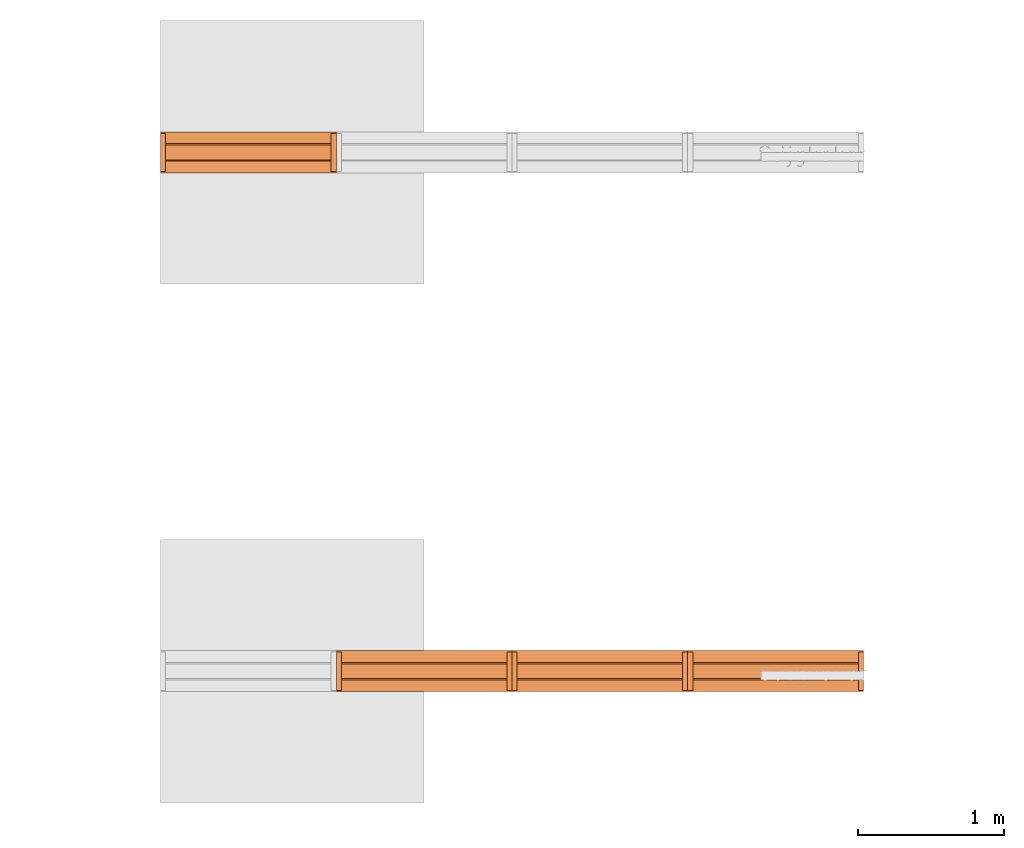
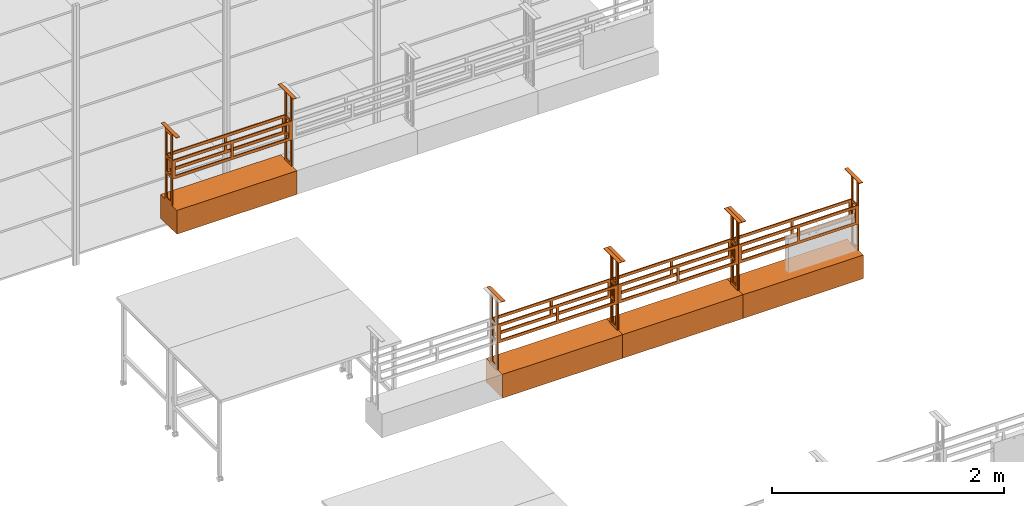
# One storey, part 13 of 32: 4 proxies.
"""IFC2X3 building model written with IfcOpenShell, lengths in metres."""

from ifc_helpers import new_model, entity, si_unit, converted_unit, derived_unit, direction, frame, origin, place, context, subcontext, project, spatial, faceted_brep, source, transform, mapped, material, material_list, type_object, type_shapes, element, save


model = new_model("IFC2X3")

# Units and contexts
model_context = context("Model", 3, precision=1e-05, world=origin(), true_north=direction((6.12303176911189e-17, 1.0)))
body_context = subcontext(model_context, "Body", "Model", "MODEL_VIEW")
ifc_project = project(units=[si_unit("LENGTHUNIT", "METRE"), si_unit("AREAUNIT", "SQUARE_METRE"), si_unit("VOLUMEUNIT", "CUBIC_METRE"), converted_unit("PLANEANGLEUNIT", "DEGREE", entity("IfcRatioMeasure", 0.0174532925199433), si_unit("PLANEANGLEUNIT", "RADIAN"), dimensions=[0, 0, 0, 0, 0, 0, 0]), si_unit("MASSUNIT", "GRAM", prefix="KILO"), derived_unit("MASSDENSITYUNIT", [(si_unit("MASSUNIT", "GRAM", prefix="KILO"), 1), (si_unit("LENGTHUNIT", "METRE"), -3)]), derived_unit("MOMENTOFINERTIAUNIT", [(si_unit("LENGTHUNIT", "METRE"), 4)]), si_unit("TIMEUNIT", "SECOND"), si_unit("FREQUENCYUNIT", "HERTZ"), si_unit("THERMODYNAMICTEMPERATUREUNIT", "DEGREE_CELSIUS"), derived_unit("THERMALTRANSMITTANCEUNIT", [(si_unit("MASSUNIT", "GRAM", prefix="KILO"), 1), (si_unit("THERMODYNAMICTEMPERATUREUNIT", "KELVIN"), -1), (si_unit("TIMEUNIT", "SECOND"), -3)]), derived_unit("VOLUMETRICFLOWRATEUNIT", [(si_unit("LENGTHUNIT", "METRE"), 3), (si_unit("TIMEUNIT", "SECOND"), -1)]), si_unit("ELECTRICCURRENTUNIT", "AMPERE"), si_unit("ELECTRICVOLTAGEUNIT", "VOLT"), si_unit("POWERUNIT", "WATT"), si_unit("FORCEUNIT", "NEWTON", prefix="KILO"), si_unit("ILLUMINANCEUNIT", "LUX"), si_unit("LUMINOUSFLUXUNIT", "LUMEN"), si_unit("LUMINOUSINTENSITYUNIT", "CANDELA"), derived_unit("USERDEFINED", [(si_unit("MASSUNIT", "GRAM", prefix="KILO"), -1), (si_unit("LENGTHUNIT", "METRE"), -2), (si_unit("TIMEUNIT", "SECOND"), 3), (si_unit("LUMINOUSFLUXUNIT", "LUMEN"), 1)]), derived_unit("LINEARVELOCITYUNIT", [(si_unit("LENGTHUNIT", "METRE"), 1), (si_unit("TIMEUNIT", "SECOND"), -1)]), si_unit("PRESSUREUNIT", "PASCAL"), derived_unit("USERDEFINED", [(si_unit("LENGTHUNIT", "METRE"), -2), (si_unit("MASSUNIT", "GRAM", prefix="KILO"), 1), (si_unit("TIMEUNIT", "SECOND"), -2)]), derived_unit("LINEARFORCEUNIT", [(si_unit("MASSUNIT", "GRAM", prefix="KILO"), 1), (si_unit("LENGTHUNIT", "METRE"), 1), (si_unit("TIMEUNIT", "SECOND"), -2), (si_unit("LENGTHUNIT", "METRE"), -1)]), derived_unit("PLANARFORCEUNIT", [(si_unit("MASSUNIT", "GRAM", prefix="KILO"), 1), (si_unit("LENGTHUNIT", "METRE"), 1), (si_unit("TIMEUNIT", "SECOND"), -2), (si_unit("LENGTHUNIT", "METRE"), -2)])], contexts=[model_context])

# Site, building, storey
site_placement = place(None, origin())
site = spatial("IfcSite", under=ifc_project, at=site_placement, Name="Default", CompositionType="ELEMENT")
building_placement = place(site_placement, origin())
building = spatial("IfcBuilding", under=site, at=building_placement, CompositionType="ELEMENT")
storey_placement = place(building_placement, origin())
storey = spatial("IfcBuildingStorey", under=building, at=storey_placement, Name="00 EG", CompositionType="ELEMENT", Elevation=0.0)

# Proxies
ifc_material = material(Name="dh_Weiß")
ifc_material_list = material_list([ifc_material, ifc_material])
building_element_proxy_type = type_object("IfcBuildingElementProxyType", Name="dh_Doppel_ MEK:DMEK 120", PredefinedType="NOTDEFINED", material=ifc_material_list)
shared_shape = source(origin(), body_context, "Body", "Brep", [
    faceted_brep([(0.0100000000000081, 0.2, 1.00500000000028), (0.0100000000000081, 0.0800000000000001, 1.00500000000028), (0.0100000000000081, 0.0800000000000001, 0.727500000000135), (0.0100000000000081, 0.0899999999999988, 0.727500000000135), (0.0100000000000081, 0.0899999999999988, 0.527500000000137), (0.0100000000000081, 0.0800000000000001, 0.527500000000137), (0.0100000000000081, 0.0800000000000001, 0.249999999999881), (0.0100000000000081, 0.2, 0.249999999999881), (0.0100000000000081, 0.2, 0.527500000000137), (0.0100000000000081, 0.189999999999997, 0.527500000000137), (0.0100000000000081, 0.189999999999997, 0.727500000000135), (0.0100000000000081, 0.2, 0.727500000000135), (0.0100000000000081, 0.175, 0.975000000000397), (0.0100000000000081, 0.175, 0.727500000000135), (0.0100000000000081, 0.105, 0.727500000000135), (0.0100000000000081, 0.105, 0.975000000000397), (0.0100000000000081, 0.175, 0.527500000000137), (0.0100000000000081, 0.175, 0.279999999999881), (0.0100000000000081, 0.105, 0.27999999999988), (0.0100000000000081, 0.105, 0.527500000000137), (0.0100000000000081, 0.175000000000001, 0.697500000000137), (0.0100000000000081, 0.175000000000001, 0.557500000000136), (0.0100000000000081, 0.105000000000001, 0.557500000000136), (0.0100000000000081, 0.105000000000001, 0.697500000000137), (0.0, 0.2, 1.00500000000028), (0.0, 0.2, 0.249999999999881), (0.0, 0.0800000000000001, 0.249999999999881), (0.0, 0.0800000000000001, 1.00500000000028), (0.0, 0.175, 0.975000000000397), (0.0, 0.105, 0.975000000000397), (0.0, 0.105, 0.727500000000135), (0.0, 0.175, 0.727500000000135), (0.0, 0.175, 0.527500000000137), (0.0, 0.105, 0.527500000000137), (0.0, 0.105, 0.27999999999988), (0.0, 0.175, 0.279999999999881), (0.0, 0.175000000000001, 0.697500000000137), (0.0, 0.105000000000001, 0.697500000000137), (0.0, 0.105000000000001, 0.557500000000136), (0.0, 0.175000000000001, 0.557500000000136), (1.19000000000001, 0.0800000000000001, 0.527500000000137), (1.19000000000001, 0.0800000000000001, 0.249999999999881), (1.20000000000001, 0.0800000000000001, 0.249999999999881), (1.20000000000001, 0.0800000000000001, 1.00500000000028), (1.19000000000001, 0.0800000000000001, 1.00500000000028), (1.19000000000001, 0.0800000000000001, 0.727500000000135), (0.61250000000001, 0.0800000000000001, 0.697500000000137), (1.16500000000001, 0.0800000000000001, 0.697500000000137), (1.16500000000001, 0.0800000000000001, 0.557500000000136), (0.61250000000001, 0.0800000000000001, 0.557500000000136), (0.0350000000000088, 0.0800000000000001, 0.697500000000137), (0.587500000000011, 0.0800000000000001, 0.697500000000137), (0.587500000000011, 0.0800000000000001, 0.557500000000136), (0.0350000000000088, 0.0800000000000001, 0.557500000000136), (1.19000000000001, 0.2, 0.727500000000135), (1.19000000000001, 0.2, 1.00500000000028), (1.20000000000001, 0.2, 1.00500000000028), (1.20000000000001, 0.2, 0.249999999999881), (1.19000000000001, 0.2, 0.249999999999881), (1.19000000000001, 0.2, 0.527500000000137), (0.0350000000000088, 0.2, 0.697500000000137), (0.0350000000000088, 0.2, 0.557500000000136), (0.587500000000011, 0.2, 0.557500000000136), (0.587500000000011, 0.2, 0.697500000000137), (0.61250000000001, 0.2, 0.697500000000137), (0.61250000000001, 0.2, 0.557500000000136), (1.16500000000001, 0.2, 0.557500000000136), (1.16500000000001, 0.2, 0.697500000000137), (1.19000000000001, 0.0899999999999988, 0.727500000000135), (1.19000000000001, 0.0899999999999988, 0.527500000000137), (0.61250000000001, 0.0899999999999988, 0.697500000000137), (0.61250000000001, 0.0899999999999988, 0.557500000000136), (1.16500000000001, 0.0899999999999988, 0.557500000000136), (1.16500000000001, 0.0899999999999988, 0.697500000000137), (0.0350000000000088, 0.0899999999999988, 0.697500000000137), (0.0350000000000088, 0.0899999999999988, 0.557500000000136), (0.587500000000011, 0.0899999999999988, 0.557500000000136), (0.587500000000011, 0.0899999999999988, 0.697500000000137), (1.19000000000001, 0.189999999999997, 0.527500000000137), (1.19000000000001, 0.189999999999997, 0.727500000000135), (0.0350000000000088, 0.189999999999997, 0.697500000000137), (0.587500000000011, 0.189999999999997, 0.697500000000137), (0.587500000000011, 0.189999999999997, 0.557500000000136), (0.0350000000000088, 0.189999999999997, 0.557500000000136), (0.61250000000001, 0.189999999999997, 0.697500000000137), (1.16500000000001, 0.189999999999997, 0.697500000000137), (1.16500000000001, 0.189999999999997, 0.557500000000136), (0.61250000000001, 0.189999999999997, 0.557500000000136), (1.20000000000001, 0.175, 0.975000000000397), (1.20000000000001, 0.175, 0.727500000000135), (1.20000000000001, 0.105, 0.727500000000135), (1.20000000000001, 0.105, 0.975000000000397), (1.20000000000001, 0.175000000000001, 0.697500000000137), (1.20000000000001, 0.175000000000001, 0.557500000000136), (1.20000000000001, 0.105000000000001, 0.557500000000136), (1.20000000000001, 0.105000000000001, 0.697500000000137), (1.20000000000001, 0.105, 0.27999999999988), (1.20000000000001, 0.105, 0.527500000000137), (1.20000000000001, 0.175, 0.527500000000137), (1.20000000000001, 0.175, 0.279999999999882), (1.19000000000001, 0.175, 0.975000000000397), (1.19000000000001, 0.105, 0.975000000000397), (1.19000000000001, 0.105, 0.727500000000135), (1.19000000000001, 0.175, 0.727500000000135), (1.19000000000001, 0.175000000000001, 0.697500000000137), (1.19000000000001, 0.105000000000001, 0.697500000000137), (1.19000000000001, 0.105000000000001, 0.557500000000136), (1.19000000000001, 0.175000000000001, 0.557500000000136), (1.19000000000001, 0.105, 0.27999999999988), (1.19000000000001, 0.175, 0.279999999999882), (1.19000000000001, 0.175, 0.527500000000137), (1.19000000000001, 0.105, 0.527500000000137)], [[[0, 1, 2, 3, 4, 5, 6, 7, 8, 9, 10, 11], [12, 13, 14, 15], [16, 17, 18, 19], [20, 21, 22, 23]], [[24, 25, 26, 27], [28, 29, 30, 31], [32, 33, 34, 35], [36, 37, 38, 39]], [[1, 0, 24, 27]], [[27, 26, 6, 5, 40, 41, 42, 43, 44, 45, 2, 1], [46, 47, 48, 49], [50, 51, 52, 53]], [[7, 6, 26, 25]], [[25, 24, 0, 11, 54, 55, 56, 57, 58, 59, 8, 7], [60, 61, 62, 63], [64, 65, 66, 67]], [[13, 12, 28, 31]], [[14, 13, 31, 30]], [[15, 14, 30, 29]], [[12, 15, 29, 28]], [[17, 16, 32, 35]], [[18, 17, 35, 34]], [[19, 18, 34, 33]], [[16, 19, 33, 32]], [[21, 20, 36, 39]], [[22, 21, 39, 38]], [[23, 22, 38, 37]], [[20, 23, 37, 36]], [[3, 68, 69, 4], [70, 71, 72, 73], [74, 75, 76, 77]], [[40, 5, 4, 69]], [[2, 45, 68, 3]], [[47, 46, 70, 73]], [[48, 47, 73, 72]], [[49, 48, 72, 71]], [[46, 49, 71, 70]], [[51, 50, 74, 77]], [[52, 51, 77, 76]], [[53, 52, 76, 75]], [[50, 53, 75, 74]], [[9, 78, 79, 10], [80, 81, 82, 83], [84, 85, 86, 87]], [[78, 9, 8, 59]], [[10, 79, 54, 11]], [[81, 80, 60, 63]], [[82, 81, 63, 62]], [[83, 82, 62, 61]], [[80, 83, 61, 60]], [[85, 84, 64, 67]], [[86, 85, 67, 66]], [[87, 86, 66, 65]], [[84, 87, 65, 64]], [[42, 57, 56, 43], [88, 89, 90, 91], [92, 93, 94, 95], [96, 97, 98, 99]], [[44, 55, 54, 79, 78, 59, 58, 41, 40, 69, 68, 45], [100, 101, 102, 103], [104, 105, 106, 107], [108, 109, 110, 111]], [[57, 42, 41, 58]], [[43, 56, 55, 44]], [[89, 88, 100, 103]], [[90, 89, 103, 102]], [[91, 90, 102, 101]], [[88, 91, 101, 100]], [[93, 92, 104, 107]], [[94, 93, 107, 106]], [[95, 94, 106, 105]], [[92, 95, 105, 104]], [[97, 96, 108, 111]], [[98, 97, 111, 110]], [[99, 98, 110, 109]], [[96, 99, 109, 108]]]),
    faceted_brep([(1.165, 0.00999999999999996, 1.01000000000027), (1.2, 0.00999999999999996, 1.01000000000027), (1.2, 0.27, 1.01000000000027), (1.165, 0.27, 1.01000000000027), (1.165, 0.00999999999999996, 1.00500000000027), (1.2, 0.00999999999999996, 1.00500000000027), (1.2, 0.27, 1.00500000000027), (1.165, 0.27, 1.00500000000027)], [[[0, 1, 2, 3]], [[1, 0, 4, 5]], [[2, 1, 5, 6]], [[3, 2, 6, 7]], [[0, 3, 7, 4]], [[4, 7, 6, 5]]]),
    faceted_brep([(0.0349999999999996, 0.270000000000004, 1.00500000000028), (0.0349999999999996, 0.0100000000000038, 1.00500000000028), (0.0, 0.0100000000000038, 1.00500000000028), (0.0, 0.270000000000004, 1.00500000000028), (0.0, 0.270000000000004, 1.01000000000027), (0.0349999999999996, 0.270000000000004, 1.01000000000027), (0.0, 0.0100000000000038, 1.01000000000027), (0.0349999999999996, 0.0100000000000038, 1.01000000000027)], [[[0, 1, 2, 3]], [[4, 5, 0, 3]], [[6, 4, 3, 2]], [[7, 6, 2, 1]], [[5, 7, 1, 0]], [[5, 4, 6, 7]]]),
    faceted_brep([(0.0, 0.2, 0.249999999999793), (0.0100000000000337, 0.2, 0.249999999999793), (1.19000000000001, 0.2, 0.249999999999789), (1.2, 0.2, 0.249999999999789), (1.2, 0.28, 0.249999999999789), (0.0, 0.28, 0.249999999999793), (0.0, 0.2, 0.244999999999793), (0.0, 0.28, 0.244999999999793), (1.2, 0.28, 0.244999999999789), (1.2, 0.2, 0.244999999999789), (1.19000000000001, 0.2, 0.244999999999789), (0.0100000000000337, 0.2, 0.244999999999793)], [[[0, 1, 2, 3, 4, 5]], [[6, 7, 8, 9, 10, 11]], [[0, 5, 7, 6]], [[5, 4, 8, 7]], [[4, 3, 9, 8]], [[3, 2, 10, 9]], [[2, 1, 11, 10]], [[1, 0, 6, 11]]]),
    faceted_brep([(1.20000000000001, 0.280000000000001, 0.245000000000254), (1.20000000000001, 0.200000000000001, 0.245000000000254), (1.20000000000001, 0.200000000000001, 0.00500000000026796), (1.20000000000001, 0.280000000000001, 0.00500000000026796), (0.0, 0.280000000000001, 0.245000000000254), (0.0, 0.280000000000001, 0.00500000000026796), (0.0, 0.200000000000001, 0.00500000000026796), (0.0, 0.200000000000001, 0.245000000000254)], [[[0, 1, 2, 3]], [[4, 5, 6, 7]], [[0, 3, 5, 4]], [[3, 2, 6, 5]], [[2, 1, 7, 6]], [[1, 0, 4, 7]]]),
    faceted_brep([(1.20000000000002, 0.08, 0.249999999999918), (1.20000000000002, 0.2, 0.249999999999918), (1.19000000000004, 0.2, 0.249999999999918), (1.19000000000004, 0.08, 0.249999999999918), (1.20000000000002, 0.08, 0.00499999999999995), (1.19000000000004, 0.08, 0.00499999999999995), (1.19000000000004, 0.2, 0.00499999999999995), (1.20000000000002, 0.2, 0.00499999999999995)], [[[0, 1, 2, 3]], [[4, 5, 6, 7]], [[1, 0, 4, 7]], [[2, 1, 7, 6]], [[3, 2, 6, 5]], [[0, 3, 5, 4]]]),
    faceted_brep([(0.0100000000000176, 0.2, 0.249999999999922), (0.0100000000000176, 0.08, 0.249999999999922), (0.0100000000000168, 0.08, 0.00500000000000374), (0.0100000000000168, 0.2, 0.00500000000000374), (0.0, 0.2, 0.249999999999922), (0.0, 0.2, 0.00500000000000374), (0.0, 0.08, 0.249999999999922), (0.0, 0.08, 0.00500000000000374)], [[[0, 1, 2, 3]], [[4, 0, 3, 5]], [[6, 4, 5, 7]], [[1, 6, 7, 2]], [[2, 7, 5, 3]], [[1, 0, 4, 6]]]),
    faceted_brep([(1.19000000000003, 0.08, 0.249999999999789), (1.19000000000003, 0.2, 0.249999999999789), (0.0100000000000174, 0.2, 0.249999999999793), (0.0100000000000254, 0.08, 0.249999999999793), (1.19000000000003, 0.08, 0.244999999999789), (0.0100000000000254, 0.08, 0.244999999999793), (0.0100000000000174, 0.2, 0.244999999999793), (1.19000000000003, 0.2, 0.244999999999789)], [[[0, 1, 2, 3]], [[4, 5, 6, 7]], [[1, 0, 4, 7]], [[2, 1, 7, 6]], [[3, 2, 6, 5]], [[0, 3, 5, 4]]]),
    faceted_brep([(0.0, 0.0, 0.0), (0.0, 0.0799999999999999, 0.0), (0.0, 0.28, 0.0), (1.20000000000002, 0.28, 0.0), (1.20000000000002, 0.0799999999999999, 0.0), (1.20000000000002, 0.0, 0.0), (0.0, 0.0, 0.00500000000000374), (1.20000000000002, 0.0, 0.00499999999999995), (1.20000000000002, 0.0799999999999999, 0.00499999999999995), (1.20000000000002, 0.28, 0.00499999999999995), (0.0, 0.28, 0.00500000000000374), (0.0, 0.0799999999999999, 0.00500000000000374)], [[[0, 1, 2, 3, 4, 5]], [[6, 7, 8, 9, 10, 11]], [[7, 6, 0, 5]], [[8, 7, 5, 4]], [[9, 8, 4, 3]], [[10, 9, 3, 2]], [[11, 10, 2, 1]], [[6, 11, 1, 0]]]),
    faceted_brep([(0.0, 0.08, 0.249999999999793), (0.0, 0.0, 0.249999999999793), (1.20000000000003, 0.0, 0.249999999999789), (1.20000000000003, 0.08, 0.249999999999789), (1.19000000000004, 0.08, 0.249999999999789), (0.0100000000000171, 0.08, 0.249999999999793), (0.0, 0.08, 0.244999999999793), (0.010000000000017, 0.08, 0.244999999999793), (1.19000000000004, 0.08, 0.244999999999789), (1.20000000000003, 0.08, 0.244999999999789), (1.20000000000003, 0.0, 0.244999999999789), (0.0, 0.0, 0.244999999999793)], [[[0, 1, 2, 3, 4, 5]], [[6, 7, 8, 9, 10, 11]], [[1, 0, 6, 11]], [[2, 1, 11, 10]], [[3, 2, 10, 9]], [[4, 3, 9, 8]], [[5, 4, 8, 7]], [[0, 5, 7, 6]]]),
    faceted_brep([(1.20000000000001, 0.0, 0.245000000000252), (1.20000000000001, 0.0, 0.00500000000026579), (1.20000000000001, 0.08, 0.00500000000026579), (1.20000000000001, 0.08, 0.245000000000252), (0.0, 0.0, 0.245000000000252), (0.0, 0.08, 0.245000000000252), (0.0, 0.08, 0.00500000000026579), (0.0, 0.0, 0.00500000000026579)], [[[0, 1, 2, 3]], [[4, 5, 6, 7]], [[1, 0, 4, 7]], [[2, 1, 7, 6]], [[3, 2, 6, 5]], [[0, 3, 5, 4]]]),
])
type_shapes(building_element_proxy_type, [shared_shape])
for number, where, name in (
    (1, (12.2679999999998, 17.0641499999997, 2.18999999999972), "dh_Doppel_ MEK:DMEK 120"),
    (2, (13.4679999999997, 17.0641499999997, 2.18999999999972), "dh_Doppel_ MEK:DMEK 120"),
    (3, (14.6679999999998, 17.0641499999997, 2.18999999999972), "dh_Doppel_ MEK:DMEK 120"),
    (4, (11.0679999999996, 20.6070749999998, 2.18999999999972), "dh_Doppel_ MEK:DMEK 120"),
):
    element("IfcBuildingElementProxy", number, at=place(storey_placement, frame(where)), inside=storey, type_object=building_element_proxy_type, material=ifc_material, Name=name, ObjectType="dh_Doppel_ MEK:DMEK 120", context=body_context, shape_type="MappedRepresentation", body=[
        mapped(shared_shape, transform((0.0, 0.0, 0.0), scale=1.0)),
    ])

save(model, "model.ifc")
